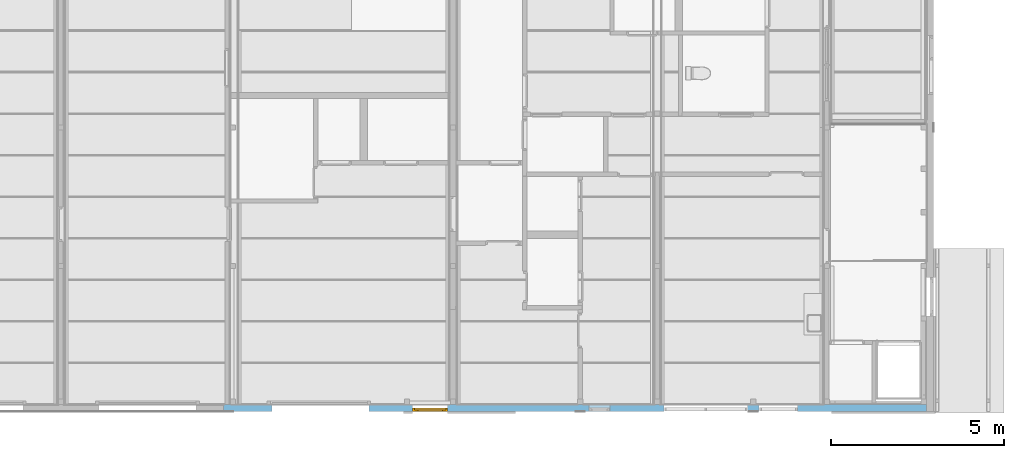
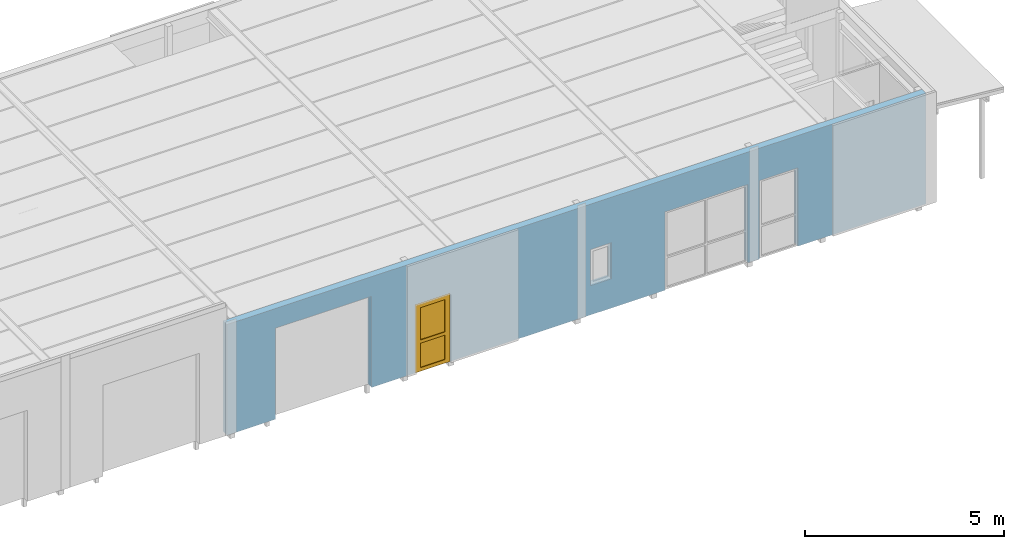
# One storey, part 25 of 45: 1 door, 5 openings, plus 1 element that does not belong to this part.
"""IFC2X3 building model written with IfcOpenShell, lengths in millimetres."""

from ifc_helpers import new_model, entity, si_unit, converted_unit, frame, frame_2d, origin, origin_with_axes, place, context, subcontext, project, spatial, rectangle, extrude, faceted_brep, material, layer, layer_set, layer_usage, type_object, element, fill, save


model = new_model("IFC2X3")

# Units and contexts
model_context = context("Model", 3, precision=1e-05, world=origin())
plan_context = context("Plan", 3, precision=1e-05, world=origin())
body_context = subcontext(model_context, "Body", "Model", "MODEL_VIEW")
ifc_project = project(units=[si_unit("LENGTHUNIT", "METRE", prefix="MILLI"), converted_unit("PLANEANGLEUNIT", "DEGREE", entity("IfcPlaneAngleMeasure", 0.0174532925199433), si_unit("PLANEANGLEUNIT", "RADIAN"), dimensions=[0, 0, 0, 0, 0, 0, 0]), si_unit("AREAUNIT", "SQUARE_METRE"), si_unit("VOLUMEUNIT", "CUBIC_METRE")], contexts=[model_context, plan_context])

# Building, storey
building_placement = place(None, origin())
building = spatial("IfcBuilding", under=ifc_project, at=building_placement, Name="HEKF Administrasjonbygg", CompositionType="ELEMENT")
storey_placement = place(building_placement, frame((0.0, 0.0, 6500.0), z_axis=(0.0, 0.0, 1.0), x_axis=(1.0, 0.0, 0.0)))
storey = spatial("IfcBuildingStorey", under=building, at=storey_placement, Name="Plan 1", CompositionType="ELEMENT", Elevation=6500.0)

# Wall, openings, door
ifc_material_1 = material(Name="Paroc 200")
ifc_layer = layer(ifc_material_1, 200.0)
ifc_layer_set = layer_set([ifc_layer])
ifc_layer_usage = layer_usage(ifc_layer_set, "AXIS2", "POSITIVE", 0.0)
wall_placement = place(storey_placement, frame((30000.0, -12000.0, 0.0), z_axis=(0.0, 0.0, 1.0), x_axis=(-1.0, 8.960538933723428e-17, 0.0)))
wall = element("IfcWallStandardCase", 1, at=wall_placement, inside=storey, material=ifc_layer_usage, context=body_context, shape_type="SweptSolid", body=[
    extrude(rectangle(XDim=20300.00000000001, YDim=200.0, at=frame_2d((10150.0, 100.0), x_axis=(1.0, 0.0))), origin_with_axes(), (0.0, 0.0, 1.0), 3400.0),
])
opening_1_placement = place(wall_placement, frame((3720.0, 0.0, 0.0), z_axis=(0.0, 1.0, 0.0), x_axis=(0.0, 0.0, 1.0)))
element("IfcOpeningElement", 2, at=opening_1_placement, cuts=wall, Name="V003", ObjectType="Opening", context=body_context, shape_type="SweptSolid", body=[
    extrude(rectangle(XDim=2410.0, YDim=1110.0, at=frame_2d((1205.0, 555.0), x_axis=(1.0, 0.0))), origin_with_axes(), (0.0, 0.0, 1.0), 200.0),
])
opening_2_placement = place(wall_placement, frame((9140.0, 0.0, 900.0), z_axis=(0.0, 1.0, 0.0), x_axis=(0.0, 0.0, 1.0)))
element("IfcOpeningElement", 3, at=opening_2_placement, cuts=wall, Name="V001", ObjectType="Opening", context=body_context, shape_type="SweptSolid", body=[
    extrude(rectangle(XDim=1110.0, YDim=610.0, at=frame_2d((555.0, 305.0), x_axis=(1.0, 0.0))), origin_with_axes(), (0.0, 0.0, 1.0), 200.0),
])
opening_3_placement = place(wall_placement, frame((16100.0, -1.818989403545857e-12, 0.0), z_axis=(0.0, 1.0, 0.0), x_axis=(0.0, 0.0, 1.0)))
element("IfcOpeningElement", 4, at=opening_3_placement, cuts=wall, Name="Port03", ObjectType="Opening", context=body_context, shape_type="SweptSolid", body=[
    extrude(rectangle(XDim=2799.999999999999, YDim=2800.0, at=frame_2d((1400.0, 1400.0), x_axis=(1.0, 0.0))), origin_with_axes(), (0.0, 0.0, 1.0), 200.0),
])
opening_4_placement = place(wall_placement, frame((13827.40874621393, -1.818989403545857e-12, 0.0), z_axis=(0.0, 1.0, 0.0), x_axis=(0.0, 0.0, 1.0)))
opening_4 = element("IfcOpeningElement", 5, at=opening_4_placement, cuts=wall, Name="D002", ObjectType="Opening", context=body_context, shape_type="SweptSolid", body=[
    extrude(rectangle(XDim=2100.0, YDim=1010.0, at=frame_2d((1050.0, 505.0), x_axis=(1.0, 0.0))), origin_with_axes(), (0.0, 0.0, 1.0), 200.0),
])
opening_5_placement = place(wall_placement, frame((5170.0, 0.0, 0.0), z_axis=(0.0, 1.0, 0.0), x_axis=(0.0, 0.0, 1.0)))
element("IfcOpeningElement", 6, at=opening_5_placement, cuts=wall, Name="V002", ObjectType="Opening", context=body_context, shape_type="SweptSolid", body=[
    extrude(rectangle(XDim=2410.0, YDim=2410.0, at=frame_2d((1205.0, 1205.0), x_axis=(1.0, 0.0))), origin_with_axes(), (0.0, 0.0, 1.0), 200.0),
])
ifc_material_2 = material()
door_style = type_object("IfcDoorStyle", Name="D002", ConstructionType="NOTDEFINED", OperationType="USERDEFINED", ParameterTakesPrecedence=False, Sizeable=False)
door_placement = place(opening_4_placement, frame((0.0, 0.0, 0.0), z_axis=(1.0, 0.0, 0.0), x_axis=(0.0, 1.0, 0.0)))
door = element("IfcDoor", 7, at=door_placement, inside=storey, type_object=door_style, material=ifc_material_2, Name="D002", OverallHeight=2100.0, OverallWidth=1010.0, context=body_context, shape_type="Brep", body=[
    faceted_brep([(1010.0, 200.0000000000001, 2100.0), (960.0, 200.0000000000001, 2100.0), (960.0, 200.0, -3.061616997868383e-15), (1010.0, 200.0, -3.061616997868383e-15), (1010.0, 100.0, 3.061616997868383e-15), (960.0, 100.0, 3.061616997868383e-15), (960.0, 100.0000000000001, 2100.0), (1010.0, 100.0000000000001, 2100.0), (1010.0, 200.0, -3.061616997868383e-15), (1010.0, 100.0, 3.061616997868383e-15), (1010.0, 100.0000000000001, 2100.0), (1010.0, 200.0000000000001, 2100.0), (960.0, 200.0, -3.061616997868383e-15), (960.0, 100.0, 3.061616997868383e-15), (1010.0, 100.0, 3.061616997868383e-15), (1010.0, 200.0, -3.061616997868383e-15), (960.0, 200.0000000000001, 2100.0), (960.0, 100.0000000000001, 2100.0), (960.0, 100.0, 3.061616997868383e-15), (960.0, 200.0, -3.061616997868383e-15), (1010.0, 200.0000000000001, 2100.0), (1010.0, 100.0000000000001, 2100.0), (960.0, 100.0000000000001, 2100.0), (960.0, 200.0000000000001, 2100.0)], [[[0, 1, 2, 3]], [[4, 5, 6, 7]], [[8, 9, 10, 11]], [[12, 13, 14, 15]], [[16, 17, 18, 19]], [[20, 21, 22, 23]]], orient=[[False], [False], [False], [False], [False], [False]]),
    faceted_brep([(50.0, 200.0000000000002, 2100.0), (0.0, 200.0000000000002, 2100.0), (0.0, 200.0, -3.061616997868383e-15), (50.0, 200.0, -3.061616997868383e-15), (50.0, 100.0, 3.061616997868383e-15), (0.0, 100.0, 3.061616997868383e-15), (0.0, 100.0000000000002, 2100.0), (50.0, 100.0000000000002, 2100.0), (50.0, 200.0, -3.061616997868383e-15), (50.0, 100.0, 3.061616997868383e-15), (50.0, 100.0000000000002, 2100.0), (50.0, 200.0000000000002, 2100.0), (0.0, 200.0, -3.061616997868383e-15), (0.0, 100.0, 3.061616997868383e-15), (50.0, 100.0, 3.061616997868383e-15), (50.0, 200.0, -3.061616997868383e-15), (0.0, 200.0000000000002, 2100.0), (0.0, 100.0000000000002, 2100.0), (0.0, 100.0, 3.061616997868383e-15), (0.0, 200.0, -3.061616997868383e-15), (50.0, 200.0000000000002, 2100.0), (50.0, 100.0000000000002, 2100.0), (0.0, 100.0000000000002, 2100.0), (0.0, 200.0000000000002, 2100.0)], [[[0, 1, 2, 3]], [[4, 5, 6, 7]], [[8, 9, 10, 11]], [[12, 13, 14, 15]], [[16, 17, 18, 19]], [[20, 21, 22, 23]]], orient=[[False], [False], [False], [False], [False], [False]]),
    faceted_brep([(960.0, 200.0, 9.999999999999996), (50.00000000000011, 200.0, 9.999999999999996), (50.00000000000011, 200.0, -3.061616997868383e-15), (960.0, 200.0, -3.061616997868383e-15), (960.0, 100.0, 3.061616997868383e-15), (50.00000000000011, 100.0, 3.061616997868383e-15), (50.00000000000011, 100.0, 10.0), (960.0, 100.0, 10.0), (960.0, 200.0, -3.061616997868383e-15), (960.0, 100.0, 3.061616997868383e-15), (960.0, 100.0, 10.0), (960.0, 200.0, 9.999999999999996), (50.00000000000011, 200.0, -3.061616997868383e-15), (50.00000000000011, 100.0, 3.061616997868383e-15), (960.0, 100.0, 3.061616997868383e-15), (960.0, 200.0, -3.061616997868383e-15), (50.00000000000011, 200.0, 9.999999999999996), (50.00000000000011, 100.0, 10.0), (50.00000000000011, 100.0, 3.061616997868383e-15), (50.00000000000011, 200.0, -3.061616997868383e-15), (960.0, 200.0, 9.999999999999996), (960.0, 100.0, 10.0), (50.00000000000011, 100.0, 10.0), (50.00000000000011, 200.0, 9.999999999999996)], [[[0, 1, 2, 3]], [[4, 5, 6, 7]], [[8, 9, 10, 11]], [[12, 13, 14, 15]], [[16, 17, 18, 19]], [[20, 21, 22, 23]]], orient=[[False], [False], [False], [False], [False], [False]]),
    faceted_brep([(960.0, 200.0000000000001, 2100.000000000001), (50.00000000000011, 200.0000000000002, 2100.000000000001), (50.00000000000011, 200.0000000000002, 2050.000000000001), (960.0, 200.0000000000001, 2050.000000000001), (960.0, 100.0000000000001, 2050.000000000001), (50.00000000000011, 100.0000000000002, 2050.000000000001), (50.00000000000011, 100.0000000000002, 2100.000000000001), (960.0, 100.0000000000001, 2100.000000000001), (960.0, 200.0000000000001, 2050.000000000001), (960.0, 100.0000000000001, 2050.000000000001), (960.0, 100.0000000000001, 2100.000000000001), (960.0, 200.0000000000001, 2100.000000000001), (50.00000000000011, 200.0000000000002, 2050.000000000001), (50.00000000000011, 100.0000000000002, 2050.000000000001), (960.0, 100.0000000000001, 2050.000000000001), (960.0, 200.0000000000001, 2050.000000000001), (50.00000000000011, 200.0000000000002, 2100.000000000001), (50.00000000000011, 100.0000000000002, 2100.000000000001), (50.00000000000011, 100.0000000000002, 2050.000000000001), (50.00000000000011, 200.0000000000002, 2050.000000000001), (960.0, 200.0000000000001, 2100.000000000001), (960.0, 100.0000000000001, 2100.000000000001), (50.00000000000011, 100.0000000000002, 2100.000000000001), (50.00000000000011, 200.0000000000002, 2100.000000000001)], [[[0, 1, 2, 3]], [[4, 5, 6, 7]], [[8, 9, 10, 11]], [[12, 13, 14, 15]], [[16, 17, 18, 19]], [[20, 21, 22, 23]]], orient=[[False], [False], [False], [False], [False], [False]]),
    faceted_brep([(960.0, 200.0000000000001, 2050.000000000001), (860.0, 200.0000000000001, 2050.000000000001), (860.0, 200.0, 9.999999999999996), (960.0, 200.0, 9.999999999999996), (960.0, 160.0, 9.999999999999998), (860.0, 160.0, 9.999999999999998), (860.0, 160.0000000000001, 2050.000000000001), (960.0, 160.0000000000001, 2050.000000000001), (960.0, 200.0, 9.999999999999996), (960.0, 160.0, 9.999999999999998), (960.0, 160.0000000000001, 2050.000000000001), (960.0, 200.0000000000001, 2050.000000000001), (860.0, 200.0, 9.999999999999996), (860.0, 160.0, 9.999999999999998), (960.0, 160.0, 9.999999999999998), (960.0, 200.0, 9.999999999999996), (860.0, 200.0000000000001, 2050.000000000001), (860.0, 160.0000000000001, 2050.000000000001), (860.0, 160.0, 9.999999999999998), (860.0, 200.0, 9.999999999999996), (960.0, 200.0000000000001, 2050.000000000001), (960.0, 160.0000000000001, 2050.000000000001), (860.0, 160.0000000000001, 2050.000000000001), (860.0, 200.0000000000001, 2050.000000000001)], [[[0, 1, 2, 3]], [[4, 5, 6, 7]], [[8, 9, 10, 11]], [[12, 13, 14, 15]], [[16, 17, 18, 19]], [[20, 21, 22, 23]]], orient=[[False], [False], [False], [False], [False], [False]]),
    faceted_brep([(150.0000000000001, 200.0000000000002, 2050.000000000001), (50.00000000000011, 200.0000000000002, 2050.000000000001), (50.00000000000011, 200.0, 9.999999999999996), (150.0000000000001, 200.0, 9.999999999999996), (150.0000000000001, 160.0, 9.999999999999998), (50.00000000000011, 160.0, 9.999999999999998), (50.00000000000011, 160.0000000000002, 2050.000000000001), (150.0000000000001, 160.0000000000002, 2050.000000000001), (150.0000000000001, 200.0, 9.999999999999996), (150.0000000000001, 160.0, 9.999999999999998), (150.0000000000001, 160.0000000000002, 2050.000000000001), (150.0000000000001, 200.0000000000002, 2050.000000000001), (50.00000000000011, 200.0, 9.999999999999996), (50.00000000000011, 160.0, 9.999999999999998), (150.0000000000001, 160.0, 9.999999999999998), (150.0000000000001, 200.0, 9.999999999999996), (50.00000000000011, 200.0000000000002, 2050.000000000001), (50.00000000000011, 160.0000000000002, 2050.000000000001), (50.00000000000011, 160.0, 9.999999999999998), (50.00000000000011, 200.0, 9.999999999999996), (150.0000000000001, 200.0000000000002, 2050.000000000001), (150.0000000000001, 160.0000000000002, 2050.000000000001), (50.00000000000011, 160.0000000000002, 2050.000000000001), (50.00000000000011, 200.0000000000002, 2050.000000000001)], [[[0, 1, 2, 3]], [[4, 5, 6, 7]], [[8, 9, 10, 11]], [[12, 13, 14, 15]], [[16, 17, 18, 19]], [[20, 21, 22, 23]]], orient=[[False], [False], [False], [False], [False], [False]]),
    faceted_brep([(860.0, 200.0, 110.0), (150.0, 200.0, 110.0), (150.0, 200.0, 9.999999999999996), (860.0, 200.0, 9.999999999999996), (860.0, 160.0, 9.999999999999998), (150.0, 160.0, 9.999999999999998), (150.0, 160.0, 110.0), (860.0, 160.0, 110.0), (860.0, 200.0, 9.999999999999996), (860.0, 160.0, 9.999999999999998), (860.0, 160.0, 110.0), (860.0, 200.0, 110.0), (150.0, 200.0, 9.999999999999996), (150.0, 160.0, 9.999999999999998), (860.0, 160.0, 9.999999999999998), (860.0, 200.0, 9.999999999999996), (150.0, 200.0, 110.0), (150.0, 160.0, 110.0), (150.0, 160.0, 9.999999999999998), (150.0, 200.0, 9.999999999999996), (860.0, 200.0, 110.0), (860.0, 160.0, 110.0), (150.0, 160.0, 110.0), (150.0, 200.0, 110.0)], [[[0, 1, 2, 3]], [[4, 5, 6, 7]], [[8, 9, 10, 11]], [[12, 13, 14, 15]], [[16, 17, 18, 19]], [[20, 21, 22, 23]]], orient=[[False], [False], [False], [False], [False], [False]]),
    faceted_brep([(860.0, 200.0000000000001, 2050.000000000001), (150.0, 200.0000000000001, 2050.000000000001), (150.0, 200.0000000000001, 1950.000000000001), (860.0, 200.0000000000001, 1950.000000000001), (860.0, 160.0000000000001, 1950.000000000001), (150.0, 160.0000000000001, 1950.000000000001), (150.0, 160.0000000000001, 2050.000000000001), (860.0, 160.0000000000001, 2050.000000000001), (860.0, 200.0000000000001, 1950.000000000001), (860.0, 160.0000000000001, 1950.000000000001), (860.0, 160.0000000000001, 2050.000000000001), (860.0, 200.0000000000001, 2050.000000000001), (150.0, 200.0000000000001, 1950.000000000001), (150.0, 160.0000000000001, 1950.000000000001), (860.0, 160.0000000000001, 1950.000000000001), (860.0, 200.0000000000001, 1950.000000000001), (150.0, 200.0000000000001, 2050.000000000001), (150.0, 160.0000000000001, 2050.000000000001), (150.0, 160.0000000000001, 1950.000000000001), (150.0, 200.0000000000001, 1950.000000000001), (860.0, 200.0000000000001, 2050.000000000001), (860.0, 160.0000000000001, 2050.000000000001), (150.0, 160.0000000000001, 2050.000000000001), (150.0, 200.0000000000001, 2050.000000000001)], [[[0, 1, 2, 3]], [[4, 5, 6, 7]], [[8, 9, 10, 11]], [[12, 13, 14, 15]], [[16, 17, 18, 19]], [[20, 21, 22, 23]]], orient=[[False], [False], [False], [False], [False], [False]]),
    faceted_brep([(860.0, 200.0000000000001, 960.0), (150.0, 200.0000000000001, 960.0), (150.0, 200.0000000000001, 860.0), (860.0, 200.0000000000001, 860.0), (860.0, 160.0000000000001, 860.0), (150.0, 160.0000000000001, 860.0), (150.0, 160.0000000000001, 960.0), (860.0, 160.0000000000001, 960.0), (860.0, 200.0000000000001, 860.0), (860.0, 160.0000000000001, 860.0), (860.0, 160.0000000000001, 960.0), (860.0, 200.0000000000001, 960.0), (150.0, 200.0000000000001, 860.0), (150.0, 160.0000000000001, 860.0), (860.0, 160.0000000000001, 860.0), (860.0, 200.0000000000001, 860.0), (150.0, 200.0000000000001, 960.0), (150.0, 160.0000000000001, 960.0), (150.0, 160.0000000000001, 860.0), (150.0, 200.0000000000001, 860.0), (860.0, 200.0000000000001, 960.0), (860.0, 160.0000000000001, 960.0), (150.0, 160.0000000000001, 960.0), (150.0, 200.0000000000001, 960.0)], [[[0, 1, 2, 3]], [[4, 5, 6, 7]], [[8, 9, 10, 11]], [[12, 13, 14, 15]], [[16, 17, 18, 19]], [[20, 21, 22, 23]]], orient=[[False], [False], [False], [False], [False], [False]]),
    faceted_brep([(860.0, 180.0, 110.0), (860.0, 180.0000000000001, 860.0), (150.0, 180.0000000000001, 860.0), (150.0, 180.0000000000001, 110.0), (860.0, 179.0, 110.0), (150.0, 179.0000000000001, 110.0), (150.0, 179.0000000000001, 860.0), (860.0, 179.0000000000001, 860.0), (860.0, 180.0, 110.0), (860.0, 179.0, 110.0), (860.0, 179.0000000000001, 860.0), (860.0, 180.0000000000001, 860.0), (860.0, 180.0000000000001, 860.0), (860.0, 179.0000000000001, 860.0), (150.0, 179.0000000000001, 860.0), (150.0, 180.0000000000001, 860.0), (150.0, 180.0000000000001, 860.0), (150.0, 179.0000000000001, 860.0), (150.0, 179.0000000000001, 110.0), (150.0, 180.0000000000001, 110.0), (150.0, 180.0000000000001, 110.0), (150.0, 179.0000000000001, 110.0), (860.0, 179.0, 110.0), (860.0, 180.0, 110.0)], [[[0, 1, 2, 3]], [[4, 5, 6, 7]], [[8, 9, 10, 11]], [[12, 13, 14, 15]], [[16, 17, 18, 19]], [[20, 21, 22, 23]]], orient=[[False], [False], [False], [False], [False], [False]]),
    faceted_brep([(860.0, 180.0000000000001, 960.0), (860.0, 180.0000000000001, 1950.000000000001), (150.0, 180.0000000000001, 1950.000000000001), (150.0, 180.0000000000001, 960.0), (860.0, 179.0000000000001, 960.0), (150.0, 179.0000000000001, 960.0), (150.0, 179.0000000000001, 1950.000000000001), (860.0, 179.0000000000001, 1950.000000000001), (860.0, 180.0000000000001, 960.0), (860.0, 179.0000000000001, 960.0), (860.0, 179.0000000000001, 1950.000000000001), (860.0, 180.0000000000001, 1950.000000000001), (860.0, 180.0000000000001, 1950.000000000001), (860.0, 179.0000000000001, 1950.000000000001), (150.0, 179.0000000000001, 1950.000000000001), (150.0, 180.0000000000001, 1950.000000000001), (150.0, 180.0000000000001, 1950.000000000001), (150.0, 179.0000000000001, 1950.000000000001), (150.0, 179.0000000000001, 960.0), (150.0, 180.0000000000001, 960.0), (150.0, 180.0000000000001, 960.0), (150.0, 179.0000000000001, 960.0), (860.0, 179.0000000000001, 960.0), (860.0, 180.0000000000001, 960.0)], [[[0, 1, 2, 3]], [[4, 5, 6, 7]], [[8, 9, 10, 11]], [[12, 13, 14, 15]], [[16, 17, 18, 19]], [[20, 21, 22, 23]]], orient=[[False], [False], [False], [False], [False], [False]]),
])
fill(opening_4, door)

save(model, "model.ifc")
